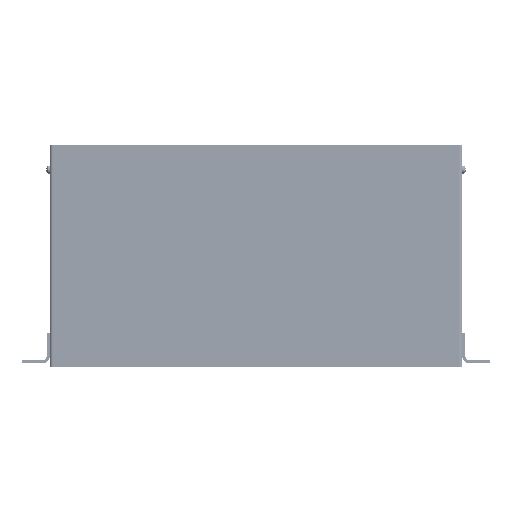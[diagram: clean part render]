
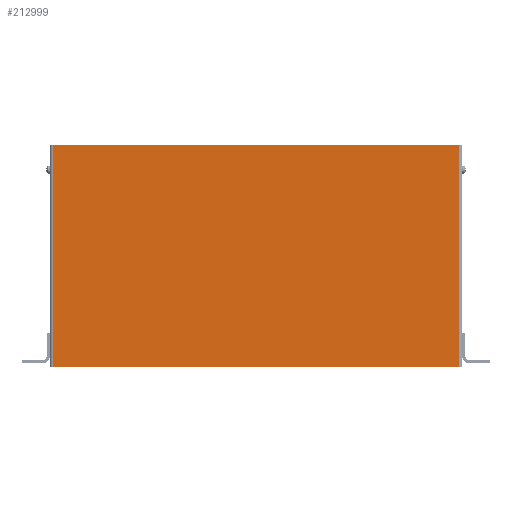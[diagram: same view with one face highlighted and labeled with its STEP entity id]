
A CAD part, top view. The second image highlights one B-rep face of the part: STEP entity #212999.
In plain terms, the highlighted planar face has unit normal (0, 0, 1).
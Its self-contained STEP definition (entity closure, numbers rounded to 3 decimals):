
#26536=FACE_OUTER_BOUND('',#38623,.T.);
#38623=EDGE_LOOP('',(#180699,#180700,#180701,#180702));
#56015=LINE('',#397223,#75912);
#56020=LINE('',#397239,#75917);
#56030=LINE('',#397266,#75927);
#56033=LINE('',#397271,#75930);
#75912=VECTOR('',#254287,10.);
#75917=VECTOR('',#254302,10.);
#75927=VECTOR('',#254334,10.);
#75930=VECTOR('',#254341,10.);
#96887=VERTEX_POINT('',#397220);
#96888=VERTEX_POINT('',#397222);
#96893=VERTEX_POINT('',#397236);
#96894=VERTEX_POINT('',#397238);
#125454=EDGE_CURVE('',#96888,#96887,#56015,.T.);
#125462=EDGE_CURVE('',#96894,#96893,#56020,.T.);
#125477=EDGE_CURVE('',#96888,#96893,#56030,.T.);
#125480=EDGE_CURVE('',#96894,#96887,#56033,.T.);
#180699=ORIENTED_EDGE('',*,*,#125477,.F.);
#180700=ORIENTED_EDGE('',*,*,#125454,.T.);
#180701=ORIENTED_EDGE('',*,*,#125480,.F.);
#180702=ORIENTED_EDGE('',*,*,#125462,.T.);
#196716=PLANE('',#222443);
#212999=ADVANCED_FACE('',(#26536),#196716,.T.);
#222443=AXIS2_PLACEMENT_3D('',#397274,#254346,#254347);
#254287=DIRECTION('',(1.,0.,0.));
#254302=DIRECTION('',(-1.,0.,0.));
#254334=DIRECTION('',(0.,1.,0.));
#254341=DIRECTION('',(0.,-1.,0.));
#254346=DIRECTION('center_axis',(0.,0.,1.));
#254347=DIRECTION('ref_axis',(1.,0.,0.));
#397220=CARTESIAN_POINT('',(420.903,0.,0.));
#397222=CARTESIAN_POINT('',(1.524,0.,0.));
#397223=CARTESIAN_POINT('',(-1.524,0.,0.));
#397236=CARTESIAN_POINT('',(1.524,228.6,0.));
#397238=CARTESIAN_POINT('',(420.903,228.6,0.));
#397239=CARTESIAN_POINT('',(423.951,228.6,0.));
#397266=CARTESIAN_POINT('',(1.524,57.15,0.));
#397271=CARTESIAN_POINT('',(420.903,171.45,0.));
#397274=CARTESIAN_POINT('Origin',(211.214,114.3,0.));
